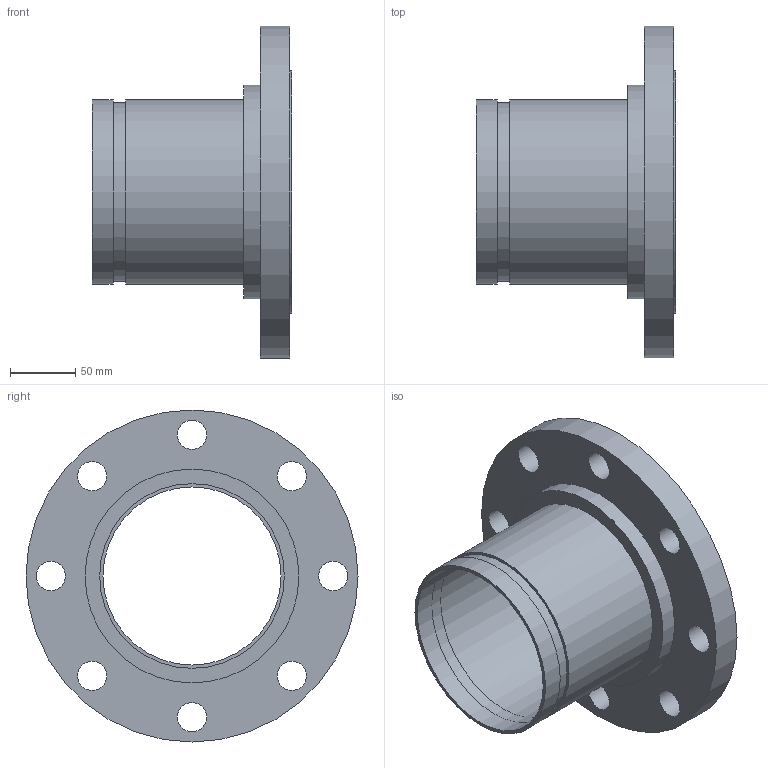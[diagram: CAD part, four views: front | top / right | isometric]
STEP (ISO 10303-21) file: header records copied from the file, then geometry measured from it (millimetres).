
FILE_DESCRIPTION(/* description */ ('VIC No 445R FLANGE ADAPTER NIPPE (ANSI)','CAx-IF Rec.Pracs.---Representation and Presentation of Product Manufacturing Information (PMI)---4.0---2014-10-13'),/* implementation_level */ '2;1');
FILE_NAME(/* name */ 'C:\Users\kkamble\AppData\Roaming\Autodesk\ApplicationPlugins\Back Up\Victaulic_SS-OGS_Flanged Adapter Nipple_CL 150 RF_Style 445R (OGSxFLG)\Victaulic_SS-OGS_Flanged Adapter Nipple_CL 150 RF_Style 445R (OGSxFLG)_5 (125).stp',/* time_stamp */ '2020-08-27T09:31:11+05:00',/* author */ ('jbrannon'),/* organization */ ('Victaulic'),/* preprocessor_version */ 'ST-DEVELOPER v17.2',/* originating_system */ 'Autodesk Inventor 2019',/* authorisation */ '');
FILE_SCHEMA (('AP242_MANAGED_MODEL_BASED_3D_ENGINEERING_MIM_LF { 1 0 10303 442 1 1 4 }'));
Length unit declared in the file: inch
Products named in the file (1): 445R-05.0
Bounding box: 152.4 x 254 x 254 mm (x, y, z)
Volume: 957615 mm3; surface area: 222105 mm2
Topology: 1 solids, 1 shells, 22 faces, 59 edges, 44 vertices
Faces by surface type: cylinder 15, plane 7
Full cylindrical faces by diameter (mm): 22.352 x8, 136.22 x1, 137.033 x1, 141.3 x2, 163.576 x1, 185.674 x1, 254 x1
Entity records: 929 total; most frequent: DIRECTION 175, CARTESIAN_POINT 143, ORIENTED_EDGE 118, AXIS2_PLACEMENT_3D 80, EDGE_CURVE 59, EDGE_LOOP 45, CIRCLE 44, VERTEX_POINT 44
